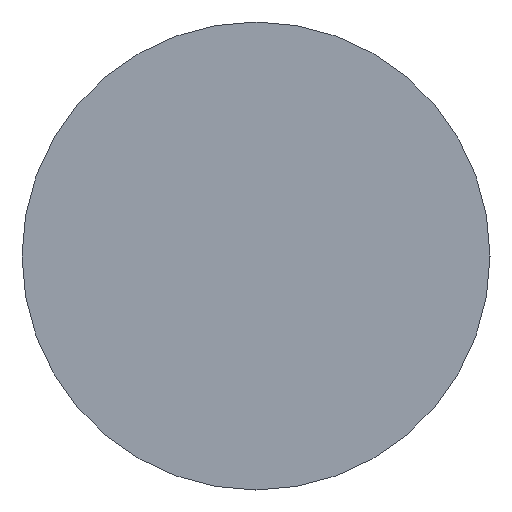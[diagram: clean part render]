
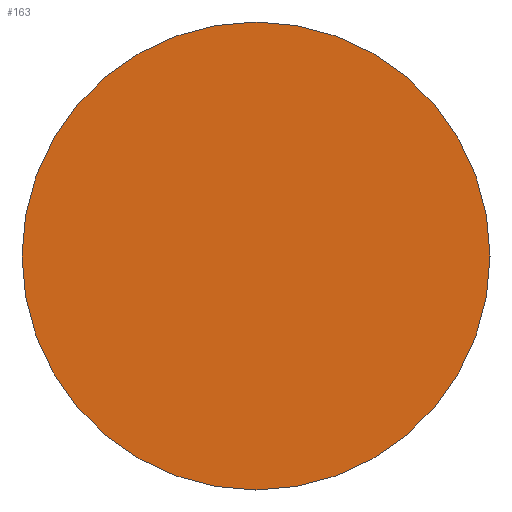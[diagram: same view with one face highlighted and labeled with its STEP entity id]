
A CAD part, left-side view. The second image highlights one B-rep face of the part: STEP entity #163.
In plain terms, the highlighted planar face has unit normal (-1, 0, 0).
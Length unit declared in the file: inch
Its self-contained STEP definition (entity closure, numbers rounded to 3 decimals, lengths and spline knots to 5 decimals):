
#12 = DIRECTION ( 'NONE',  ( 0., 0., 1. ) ) ;
#29 = ORIENTED_EDGE ( 'NONE', *, *, #249, .T. ) ;
#43 = DIRECTION ( 'NONE',  ( -1., 0., 0. ) ) ;
#98 = DIRECTION ( 'NONE',  ( 1., 0., 0. ) ) ;
#106 = CARTESIAN_POINT ( 'NONE',  ( -5., 0., 0. ) ) ;
#136 = FACE_OUTER_BOUND ( 'NONE', #433, .T. ) ;
#163 = ADVANCED_FACE ( 'NONE', ( #136 ), #182, .F. ) ;
#182 = PLANE ( 'NONE',  #423 ) ;
#202 = CIRCLE ( 'NONE', #210, 0.5 ) ;
#210 = AXIS2_PLACEMENT_3D ( 'NONE', #365, #323, #220 ) ;
#220 = DIRECTION ( 'NONE',  ( 0., 0., 1. ) ) ;
#225 = CARTESIAN_POINT ( 'NONE',  ( -5., 0., 0.5 ) ) ;
#239 = CARTESIAN_POINT ( 'NONE',  ( -5., 0., -0.5 ) ) ;
#248 = DIRECTION ( 'NONE',  ( 0., 0., -1. ) ) ;
#249 = EDGE_CURVE ( 'NONE', #466, #280, #202, .T. ) ;
#277 = EDGE_CURVE ( 'NONE', #280, #466, #372, .T. ) ;
#279 = AXIS2_PLACEMENT_3D ( 'NONE', #106, #43, #12 ) ;
#280 = VERTEX_POINT ( 'NONE', #225 ) ;
#323 = DIRECTION ( 'NONE',  ( -1., 0., 0. ) ) ;
#365 = CARTESIAN_POINT ( 'NONE',  ( -5., 0., 0. ) ) ;
#372 = CIRCLE ( 'NONE', #279, 0.5 ) ;
#423 = AXIS2_PLACEMENT_3D ( 'NONE', #434, #98, #248 ) ;
#433 = EDGE_LOOP ( 'NONE', ( #461, #29 ) ) ;
#434 = CARTESIAN_POINT ( 'NONE',  ( -5., 0.5, 0. ) ) ;
#461 = ORIENTED_EDGE ( 'NONE', *, *, #277, .T. ) ;
#466 = VERTEX_POINT ( 'NONE', #239 ) ;
